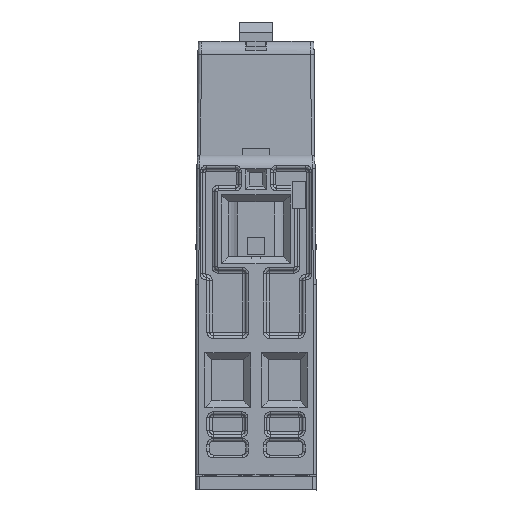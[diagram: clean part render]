
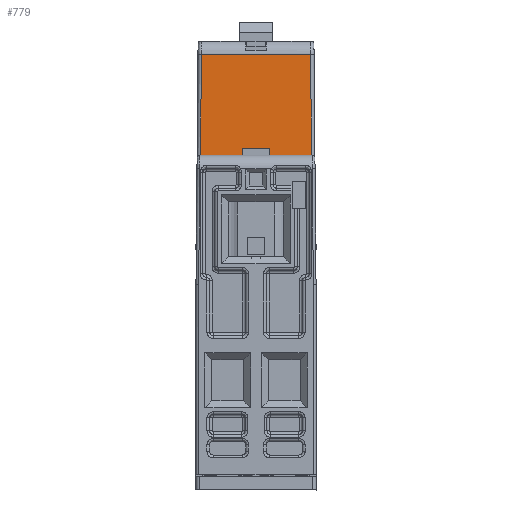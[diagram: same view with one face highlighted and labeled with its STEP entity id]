
A CAD part, front view. The second image highlights one B-rep face of the part: STEP entity #779.
In plain terms, the highlighted planar face has unit normal (0, -1, 0.009).
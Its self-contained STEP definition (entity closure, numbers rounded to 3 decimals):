
#779 = ADVANCED_FACE ( 'NONE', ( #30149 ), #4788, .T. ) ;
#809 = LINE ( 'NONE', #1184, #22802 ) ;
#998 = DIRECTION ( 'NONE',  ( -0.009, 0.009, 1. ) ) ;
#1184 = CARTESIAN_POINT ( 'NONE',  ( 16.708, 20.178, 63.422 ) ) ;
#1619 = CARTESIAN_POINT ( 'NONE',  ( -0.108, 20.178, 63.422 ) ) ;
#2282 = AXIS2_PLACEMENT_3D ( 'NONE', #7585, #9835, #12617 ) ;
#3636 = EDGE_CURVE ( 'NONE', #22966, #16819, #24788, .T. ) ;
#3685 = EDGE_CURVE ( 'NONE', #32135, #30484, #10591, .T. ) ;
#4719 = DIRECTION ( 'NONE',  ( 0., 0.009, 1. ) ) ;
#4788 = PLANE ( 'NONE',  #2282 ) ;
#5173 = DIRECTION ( 'NONE',  ( 1., 0., 0. ) ) ;
#6057 = EDGE_CURVE ( 'NONE', #32135, #34421, #36593, .T. ) ;
#6097 = EDGE_CURVE ( 'NONE', #22966, #34421, #36054, .T. ) ;
#6920 = DIRECTION ( 'NONE',  ( 1., 0., 0. ) ) ;
#7279 = LINE ( 'NONE', #32282, #17837 ) ;
#7585 = CARTESIAN_POINT ( 'NONE',  ( -0.108, 20.05, 48.8 ) ) ;
#8034 = EDGE_CURVE ( 'NONE', #10725, #16819, #7279, .T. ) ;
#8038 = VERTEX_POINT ( 'NONE', #10097 ) ;
#8752 = CARTESIAN_POINT ( 'NONE',  ( 6.75, 20.05, 48.8 ) ) ;
#9835 = DIRECTION ( 'NONE',  ( 0., -1., 0.009 ) ) ;
#10097 = CARTESIAN_POINT ( 'NONE',  ( 0.792, 20.178, 63.422 ) ) ;
#10591 = LINE ( 'NONE', #21788, #34429 ) ;
#10725 = VERTEX_POINT ( 'NONE', #24102 ) ;
#10760 = CARTESIAN_POINT ( 'NONE',  ( 6.75, 20.059, 49.8 ) ) ;
#11366 = VERTEX_POINT ( 'NONE', #18086 ) ;
#12617 = DIRECTION ( 'NONE',  ( -1., 0., 0. ) ) ;
#12820 = VECTOR ( 'NONE', #36872, 1000. ) ;
#14687 = ORIENTED_EDGE ( 'NONE', *, *, #8034, .T. ) ;
#15939 = VECTOR ( 'NONE', #16175, 1000. ) ;
#16175 = DIRECTION ( 'NONE',  ( 0., -0.009, -1. ) ) ;
#16819 = VERTEX_POINT ( 'NONE', #8752 ) ;
#17837 = VECTOR ( 'NONE', #6920, 1000. ) ;
#18086 = CARTESIAN_POINT ( 'NONE',  ( 16.708, 20.178, 63.422 ) ) ;
#21223 = LINE ( 'NONE', #1619, #29540 ) ;
#21399 = CARTESIAN_POINT ( 'NONE',  ( 6.75, 20.059, 49.8 ) ) ;
#21788 = CARTESIAN_POINT ( 'NONE',  ( -0.108, 20.05, 48.8 ) ) ;
#21873 = CARTESIAN_POINT ( 'NONE',  ( 10.75, 20.05, 48.8 ) ) ;
#22229 = DIRECTION ( 'NONE',  ( 1., 0., 0. ) ) ;
#22802 = VECTOR ( 'NONE', #998, 1000. ) ;
#22966 = VERTEX_POINT ( 'NONE', #21399 ) ;
#23383 = ORIENTED_EDGE ( 'NONE', *, *, #24854, .T. ) ;
#23736 = ORIENTED_EDGE ( 'NONE', *, *, #33858, .T. ) ;
#23753 = ORIENTED_EDGE ( 'NONE', *, *, #3636, .F. ) ;
#23795 = ORIENTED_EDGE ( 'NONE', *, *, #6057, .F. ) ;
#24102 = CARTESIAN_POINT ( 'NONE',  ( 0.664, 20.05, 48.8 ) ) ;
#24788 = LINE ( 'NONE', #10760, #15939 ) ;
#24854 = EDGE_CURVE ( 'NONE', #30484, #11366, #809, .T. ) ;
#25937 = EDGE_LOOP ( 'NONE', ( #23753, #32537, #23795, #31947, #23383, #23736, #32256, #14687 ) ) ;
#27638 = CARTESIAN_POINT ( 'NONE',  ( -0.108, 20.059, 49.8 ) ) ;
#29540 = VECTOR ( 'NONE', #35772, 1000. ) ;
#30149 = FACE_OUTER_BOUND ( 'NONE', #25937, .T. ) ;
#30484 = VERTEX_POINT ( 'NONE', #30923 ) ;
#30889 = VECTOR ( 'NONE', #22229, 1000. ) ;
#30923 = CARTESIAN_POINT ( 'NONE',  ( 16.836, 20.05, 48.8 ) ) ;
#31245 = CARTESIAN_POINT ( 'NONE',  ( 0.809, 20.195, 65.461 ) ) ;
#31947 = ORIENTED_EDGE ( 'NONE', *, *, #3685, .T. ) ;
#32135 = VERTEX_POINT ( 'NONE', #32802 ) ;
#32256 = ORIENTED_EDGE ( 'NONE', *, *, #32693, .F. ) ;
#32282 = CARTESIAN_POINT ( 'NONE',  ( -0.108, 20.05, 48.8 ) ) ;
#32537 = ORIENTED_EDGE ( 'NONE', *, *, #6097, .T. ) ;
#32674 = VECTOR ( 'NONE', #4719, 1000. ) ;
#32693 = EDGE_CURVE ( 'NONE', #10725, #8038, #34425, .T. ) ;
#32802 = CARTESIAN_POINT ( 'NONE',  ( 10.75, 20.05, 48.8 ) ) ;
#33455 = CARTESIAN_POINT ( 'NONE',  ( 10.75, 20.059, 49.8 ) ) ;
#33858 = EDGE_CURVE ( 'NONE', #11366, #8038, #21223, .T. ) ;
#34421 = VERTEX_POINT ( 'NONE', #33455 ) ;
#34425 = LINE ( 'NONE', #31245, #12820 ) ;
#34429 = VECTOR ( 'NONE', #5173, 1000. ) ;
#35772 = DIRECTION ( 'NONE',  ( -1., 0., 0. ) ) ;
#36054 = LINE ( 'NONE', #27638, #30889 ) ;
#36593 = LINE ( 'NONE', #21873, #32674 ) ;
#36872 = DIRECTION ( 'NONE',  ( 0.009, 0.009, 1. ) ) ;
